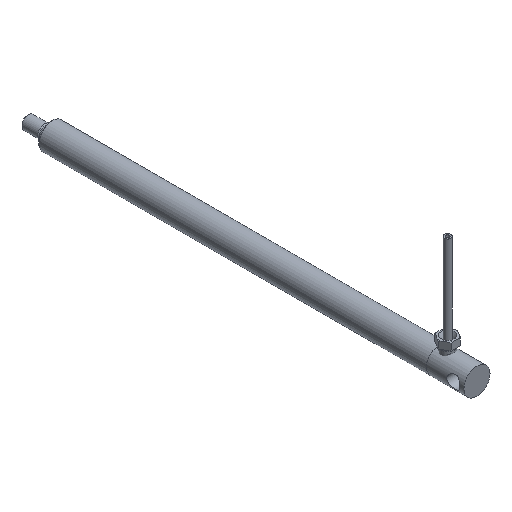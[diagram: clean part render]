
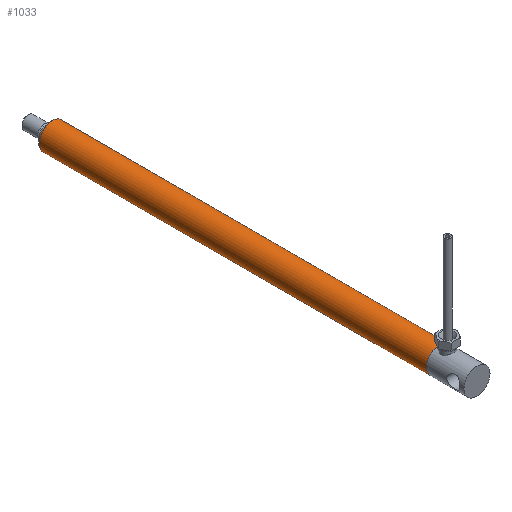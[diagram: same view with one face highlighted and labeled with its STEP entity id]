
A CAD part, isometric view. The second image highlights one B-rep face of the part: STEP entity #1033.
In plain terms, the highlighted cylindrical face has radius 8 mm (diameter 16 mm), a full revolution.
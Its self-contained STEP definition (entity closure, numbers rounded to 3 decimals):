
#151=CYLINDRICAL_SURFACE('',#1660,8.);
#186=ORIENTED_EDGE('',*,*,#399,.F.);
#187=ORIENTED_EDGE('',*,*,#403,.T.);
#399=EDGE_CURVE('',#509,#509,#608,.T.);
#403=EDGE_CURVE('',#513,#513,#612,.T.);
#509=VERTEX_POINT('',#2179);
#513=VERTEX_POINT('',#2190);
#608=CIRCLE('',#1652,8.);
#612=CIRCLE('',#1659,8.);
#688=EDGE_LOOP('',(#186));
#689=EDGE_LOOP('',(#187));
#847=FACE_BOUND('',#688,.T.);
#848=FACE_BOUND('',#689,.T.);
#1033=ADVANCED_FACE('',(#847,#848),#151,.T.);
#1652=AXIS2_PLACEMENT_3D('',#2178,#1824,#1825);
#1659=AXIS2_PLACEMENT_3D('',#2189,#1838,#1839);
#1660=AXIS2_PLACEMENT_3D('',#2191,#1840,#1841);
#1824=DIRECTION('',(-1.,0.,0.));
#1825=DIRECTION('',(0.,0.,1.));
#1838=DIRECTION('',(-1.,0.,0.));
#1839=DIRECTION('',(0.,0.,1.));
#1840=DIRECTION('',(-1.,0.,0.));
#1841=DIRECTION('',(0.,0.,1.));
#2178=CARTESIAN_POINT('',(0.,0.,0.));
#2179=CARTESIAN_POINT('',(0.,0.,8.));
#2189=CARTESIAN_POINT('',(238.,0.,0.));
#2190=CARTESIAN_POINT('',(238.,0.,8.));
#2191=CARTESIAN_POINT('',(-60.,0.,0.));
